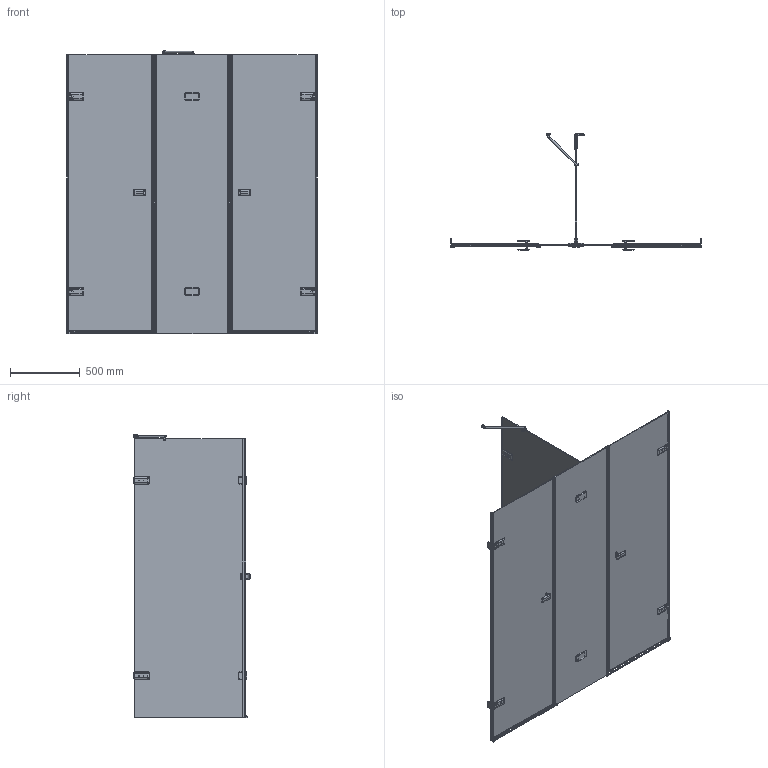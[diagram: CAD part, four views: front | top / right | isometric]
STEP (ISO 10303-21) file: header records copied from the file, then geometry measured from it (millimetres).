
FILE_DESCRIPTION(/* description */ (''),/* implementation_level */ '2;1');
FILE_NAME(/* name */ 'D:\!\!\TREND RECTAN GK-886T\TREND RECTAN GK-886T-3D.stp',/* time_stamp */ '2019-10-20T17:07:52+03:00',/* author */ ('User'),/* organization */ (''),/* preprocessor_version */ 'ST-DEVELOPER v15.2',/* originating_system */ 'Autodesk Inventor 2014',/* authorisation */ '');
FILE_SCHEMA (('CONFIG_CONTROL_DESIGN'));
Products named in the file (1): TREND RECTAN GK-886T-3D
Bounding box: 1800 x 832.6 x 2031.49 mm (x, y, z)
Volume: 37873911.2 mm3; surface area: 11449895.9 mm2
Topology: 9 solids, 39 shells, 2228 faces, 5826 edges, 3727 vertices
Faces by surface type: plane 1338, cylinder 641, bspline 122, torus 65, cone 46, sphere 16
Full cylindrical faces by diameter (mm): 4 x4, 4.134 x4, 4.917 x4, 5 x12, 5.2 x4, 6 x4, 7.2 x8, 8 x4, 10 x12, 11 x4, 12 x17, 13 x8, 15 x1, 16 x8, 20 x2, 26 x1, 28 x2, 28.5 x2, 40 x2
Entity records: 73688 total; most frequent: CARTESIAN_POINT 17902, DIRECTION 10990, ORIENTED_EDGE 10902, EDGE_CURVE 5447, LINE 3680, VECTOR 3680, AXIS2_PLACEMENT_3D 3655, VERTEX_POINT 3475
